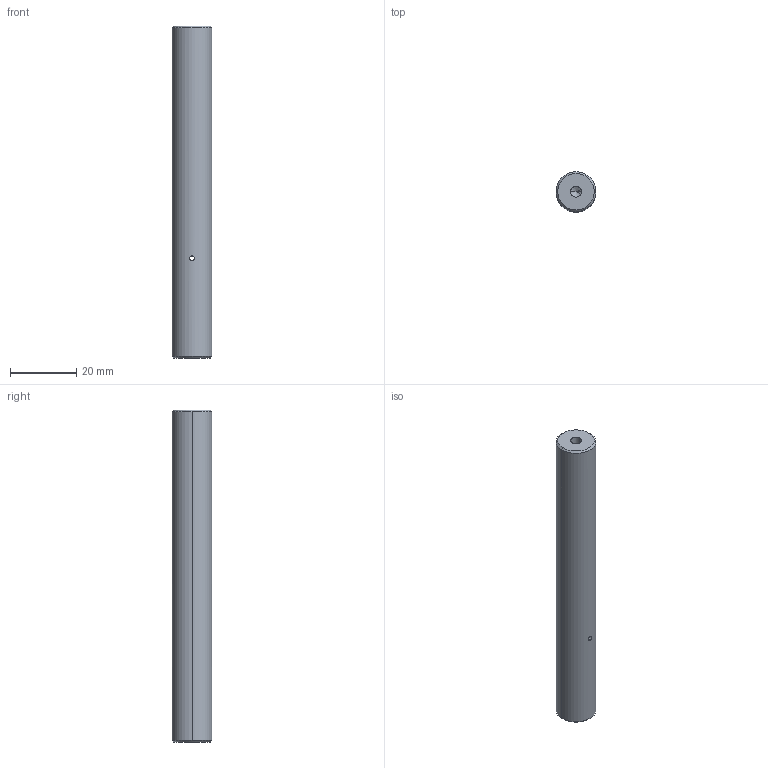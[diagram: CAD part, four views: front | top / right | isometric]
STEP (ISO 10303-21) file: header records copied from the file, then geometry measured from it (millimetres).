
FILE_DESCRIPTION (( 'STEP AP203' ), '1' );
FILE_NAME ('PHSP12-4C.step', '2019-05-09T09:08:07', ( '' ), ( '' ), 'SwSTEP 2.0', 'SolidWorks 2016', '' );
FILE_SCHEMA (( 'CONFIG_CONTROL_DESIGN' ));
Length unit declared in the file: millimetre
Products named in the file (1): PHSP12-4C
Bounding box: 12 x 12 x 100 mm (x, y, z)
Volume: 11101 mm3; surface area: 4238.4 mm2
Topology: 1 solids, 1 shells, 18 faces, 40 edges, 22 vertices
Faces by surface type: cylinder 8, cone 8, plane 2
Entity records: 597 total; most frequent: CARTESIAN_POINT 133, DIRECTION 86, ORIENTED_EDGE 72, EDGE_CURVE 36, AXIS2_PLACEMENT_3D 35, EDGE_LOOP 22, VERTEX_POINT 22, FACE_OUTER_BOUND 18
